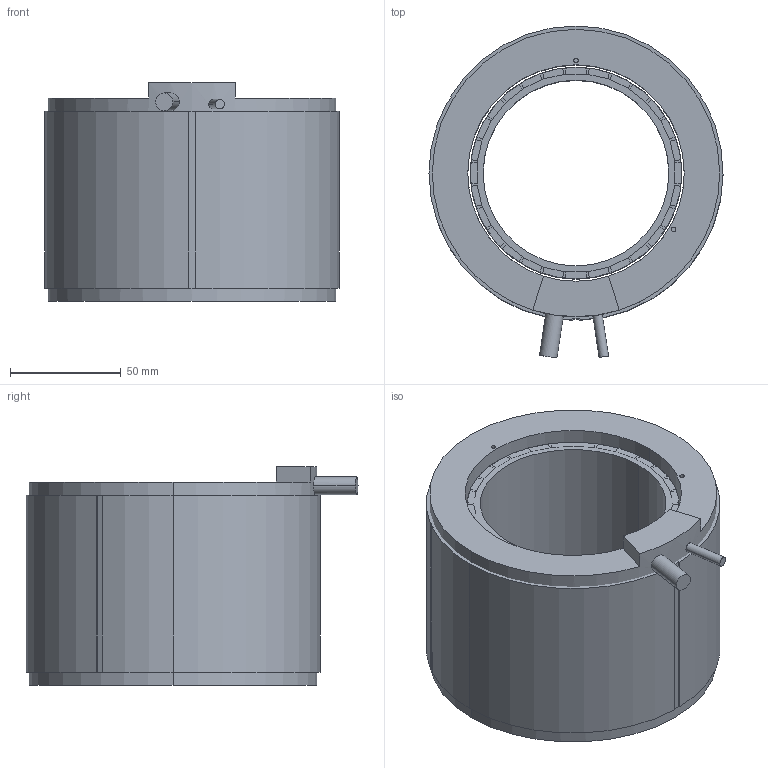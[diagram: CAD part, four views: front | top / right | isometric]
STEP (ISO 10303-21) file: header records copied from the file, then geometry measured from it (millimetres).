
FILE_DESCRIPTION (( 'STEP AP203' ), '1' );
FILE_NAME ('TM133-92 3D.STEP', '2024-01-12T02:56:49', ( '' ), ( '' ), 'SwSTEP 2.0', 'SolidWorks 2021', '' );
FILE_SCHEMA (( 'CONFIG_CONTROL_DESIGN' ));
Length unit declared in the file: millimetre
Products named in the file (1): TM133-92 3D
Bounding box: 133 x 150.15 x 99 mm (x, y, z)
Volume: 879704.6 mm3; surface area: 255569.2 mm2
Topology: 31 solids, 31 shells, 220 faces, 465 edges, 310 vertices
Faces by surface type: plane 170, cylinder 50
Entity records: 6022 total; most frequent: CARTESIAN_POINT 1120, DIRECTION 1003, ORIENTED_EDGE 930, EDGE_CURVE 465, LINE 361, VECTOR 361, AXIS2_PLACEMENT_3D 321, VERTEX_POINT 310
